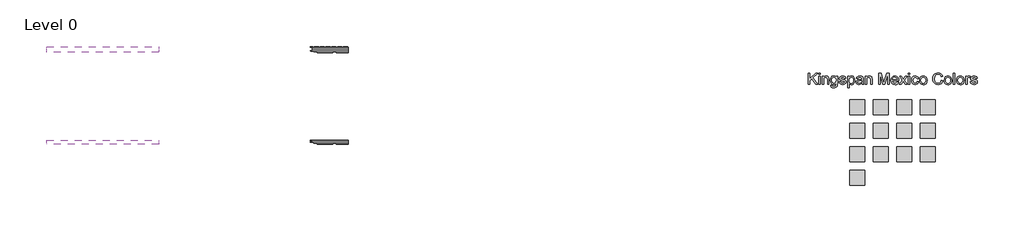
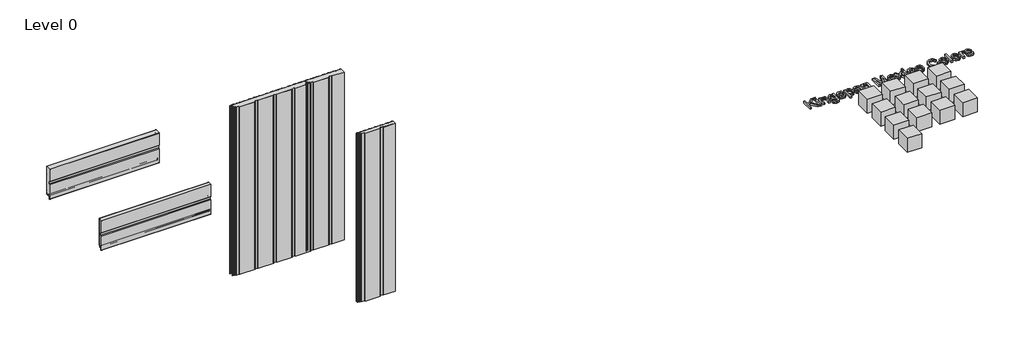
# One storey, incomplete: 14 proxies, 5 plates.
"""IFC4 building model written with IfcOpenShell, lengths in millimetres."""

from ifc_helpers import new_model, si_unit, origin, place, context, project, spatial, transform, mapped, element, save
from components import generic_models_94ed907e, ks_colour_sample_ks_colour_sample_0243efec, hz_050mm_ca93fbe0, hz_075mm_f9465556, vt_050mm_93b16b37, vt_075mm_114747fd, vt_075mm_04f93a46, vt_075mm_c0fd3bfb

model = new_model("IFC4")

# Units and contexts
model_context = context("Model", 3, world=origin())
ifc_project = project(units=[si_unit("LENGTHUNIT", "METRE", prefix="MILLI")], contexts=[model_context])

# Site, building, storey
site = spatial("IfcSite", under=ifc_project)
building = spatial("IfcBuilding", under=site)
storey = spatial("IfcBuildingStorey", under=building, Name="Level 0", Elevation=0.0)

# Proxies
placement = place(None, origin())
generic_models_shape = generic_models_94ed907e(model_context)
element("IfcBuildingElementProxy", 1, Name="KIP-MX_ColourRange_English : KIP-MX_ColourRange_English", ObjectType="KIP-MX_ColourRange_English : KIP-MX_ColourRange_English", at=placement, inside=storey, context=model_context, shape_type="MappedRepresentation", body=[
    mapped(generic_models_shape, transform((1966.0629502, 11802.7493823, 0.0), x_axis=(1.0, 0.0, 0.0), y_axis=(0.0, 1.0, 0.0), z_axis=(0.0, 0.0, 1.0))),
])
ks_colour_sample_ks_colour_sample_shape = ks_colour_sample_ks_colour_sample_0243efec(model_context)
element("IfcBuildingElementProxy", 2, Name="KS_Colour Sample : KS_Colour Sample", ObjectType="KS_Colour Sample : KS_Colour Sample", at=placement, inside=storey, context=model_context, shape_type="MappedRepresentation", body=[
    mapped(ks_colour_sample_ks_colour_sample_shape, transform((1501.0629502, 13781.2299273, 0.0), x_axis=(1.0, 0.0, 0.0), y_axis=(0.0, 1.0, 0.0), z_axis=(0.0, 0.0, 1.0))),
])
element("IfcBuildingElementProxy", 3, Name="KS_Colour Sample : KS_Colour Sample", ObjectType="KS_Colour Sample : KS_Colour Sample", at=placement, inside=storey, context=model_context, shape_type="MappedRepresentation", body=[
    mapped(ks_colour_sample_ks_colour_sample_shape, transform((1811.0629502, 13781.2299273, 0.0), x_axis=(1.0, 0.0, 0.0), y_axis=(0.0, 1.0, 0.0), z_axis=(0.0, 0.0, 1.0))),
])
element("IfcBuildingElementProxy", 4, Name="KS_Colour Sample : KS_Colour Sample", ObjectType="KS_Colour Sample : KS_Colour Sample", at=placement, inside=storey, context=model_context, shape_type="MappedRepresentation", body=[
    mapped(ks_colour_sample_ks_colour_sample_shape, transform((2121.0629502, 13781.2299273, 0.0), x_axis=(1.0, 0.0, 0.0), y_axis=(0.0, 1.0, 0.0), z_axis=(0.0, 0.0, 1.0))),
])
element("IfcBuildingElementProxy", 5, Name="KS_Colour Sample : KS_Colour Sample", ObjectType="KS_Colour Sample : KS_Colour Sample", at=placement, inside=storey, context=model_context, shape_type="MappedRepresentation", body=[
    mapped(ks_colour_sample_ks_colour_sample_shape, transform((2431.0629502, 13781.2299273, 0.0), x_axis=(1.0, 0.0, 0.0), y_axis=(0.0, 1.0, 0.0), z_axis=(0.0, 0.0, 1.0))),
])
element("IfcBuildingElementProxy", 6, Name="KS_Colour Sample : KS_Colour Sample", ObjectType="KS_Colour Sample : KS_Colour Sample", at=placement, inside=storey, context=model_context, shape_type="MappedRepresentation", body=[
    mapped(ks_colour_sample_ks_colour_sample_shape, transform((1501.0629502, 13471.2299273, 0.0), x_axis=(1.0, 0.0, 0.0), y_axis=(0.0, 1.0, 0.0), z_axis=(0.0, 0.0, 1.0))),
])
element("IfcBuildingElementProxy", 7, Name="KS_Colour Sample : KS_Colour Sample", ObjectType="KS_Colour Sample : KS_Colour Sample", at=placement, inside=storey, context=model_context, shape_type="MappedRepresentation", body=[
    mapped(ks_colour_sample_ks_colour_sample_shape, transform((1811.0629502, 13471.2299273, 0.0), x_axis=(1.0, 0.0, 0.0), y_axis=(0.0, 1.0, 0.0), z_axis=(0.0, 0.0, 1.0))),
])
element("IfcBuildingElementProxy", 8, Name="KS_Colour Sample : KS_Colour Sample", ObjectType="KS_Colour Sample : KS_Colour Sample", at=placement, inside=storey, context=model_context, shape_type="MappedRepresentation", body=[
    mapped(ks_colour_sample_ks_colour_sample_shape, transform((2121.0629502, 13471.2299273, 0.0), x_axis=(1.0, 0.0, 0.0), y_axis=(0.0, 1.0, 0.0), z_axis=(0.0, 0.0, 1.0))),
])
element("IfcBuildingElementProxy", 9, Name="KS_Colour Sample : KS_Colour Sample", ObjectType="KS_Colour Sample : KS_Colour Sample", at=placement, inside=storey, context=model_context, shape_type="MappedRepresentation", body=[
    mapped(ks_colour_sample_ks_colour_sample_shape, transform((2431.0629502, 13471.2299273, 0.0), x_axis=(1.0, 0.0, 0.0), y_axis=(0.0, 1.0, 0.0), z_axis=(0.0, 0.0, 1.0))),
])
element("IfcBuildingElementProxy", 10, Name="KS_Colour Sample : KS_Colour Sample", ObjectType="KS_Colour Sample : KS_Colour Sample", at=placement, inside=storey, context=model_context, shape_type="MappedRepresentation", body=[
    mapped(ks_colour_sample_ks_colour_sample_shape, transform((1501.0629502, 13161.2299273, 0.0), x_axis=(1.0, 0.0, 0.0), y_axis=(0.0, 1.0, 0.0), z_axis=(0.0, 0.0, 1.0))),
])
element("IfcBuildingElementProxy", 11, Name="KS_Colour Sample : KS_Colour Sample", ObjectType="KS_Colour Sample : KS_Colour Sample", at=placement, inside=storey, context=model_context, shape_type="MappedRepresentation", body=[
    mapped(ks_colour_sample_ks_colour_sample_shape, transform((1811.0629502, 13161.2299273, 0.0), x_axis=(1.0, 0.0, 0.0), y_axis=(0.0, 1.0, 0.0), z_axis=(0.0, 0.0, 1.0))),
])
element("IfcBuildingElementProxy", 12, Name="KS_Colour Sample : KS_Colour Sample", ObjectType="KS_Colour Sample : KS_Colour Sample", at=placement, inside=storey, context=model_context, shape_type="MappedRepresentation", body=[
    mapped(ks_colour_sample_ks_colour_sample_shape, transform((2121.0629502, 13161.2299273, 0.0), x_axis=(1.0, 0.0, 0.0), y_axis=(0.0, 1.0, 0.0), z_axis=(0.0, 0.0, 1.0))),
])
element("IfcBuildingElementProxy", 13, Name="KS_Colour Sample : KS_Colour Sample", ObjectType="KS_Colour Sample : KS_Colour Sample", at=placement, inside=storey, context=model_context, shape_type="MappedRepresentation", body=[
    mapped(ks_colour_sample_ks_colour_sample_shape, transform((2431.0629502, 13161.2299273, 0.0), x_axis=(1.0, 0.0, 0.0), y_axis=(0.0, 1.0, 0.0), z_axis=(0.0, 0.0, 1.0))),
])
element("IfcBuildingElementProxy", 14, Name="KS_Colour Sample : KS_Colour Sample", ObjectType="KS_Colour Sample : KS_Colour Sample", at=placement, inside=storey, context=model_context, shape_type="MappedRepresentation", body=[
    mapped(ks_colour_sample_ks_colour_sample_shape, transform((1501.0629502, 12851.2299273, 0.0), x_axis=(1.0, 0.0, 0.0), y_axis=(0.0, 1.0, 0.0), z_axis=(0.0, 0.0, 1.0))),
])

# Plates
hz_050mm_shape = hz_050mm_ca93fbe0(model_context)
element("IfcPlate", 15, ObjectType="KIP-MEX-KW-R19-CP-Hz-KW3_SL : Hz 050mm", at=placement, inside=storey, context=model_context, shape_type="MappedRepresentation", body=[
    mapped(hz_050mm_shape, transform((-8438.7250935, 13346.6881223, 2000.0), x_axis=(1.0, 0.0, 0.0), y_axis=(0.0, 1.0, 0.0), z_axis=(0.0, 0.0, 1.0))),
])
hz_075mm_shape = hz_075mm_f9465556(model_context)
element("IfcPlate", 16, ObjectType="KIP-MEX-KW-R19-CP-Hz-KW3_SL : Hz 075mm", at=placement, inside=storey, context=model_context, shape_type="MappedRepresentation", body=[
    mapped(hz_075mm_shape, transform((-8438.7250935, 14580.6646856, 2000.0), x_axis=(1.0, 0.0, 0.0), y_axis=(0.0, 1.0, 0.0), z_axis=(0.0, 0.0, 1.0))),
])
vt_050mm_shape = vt_050mm_93b16b37(model_context)
element("IfcPlate", 17, ObjectType="KIP-MEX-KW-R19-CP-Vt-KW3_SL : Vt 050mm", at=placement, inside=storey, context=model_context, shape_type="MappedRepresentation", body=[
    mapped(vt_050mm_shape, transform((-5438.9413834, 13346.6881223, 0.0), x_axis=(1.0, 0.0, 0.0), y_axis=(0.0, 1.0, 0.0), z_axis=(0.0, 0.0, 1.0))),
])
vt_075mm_shape = vt_075mm_114747fd(model_context)
vt_075mm_2_shape = vt_075mm_04f93a46(model_context)
element("IfcPlate", 18, ObjectType="KIP-MEX-KW-R19-CP-Vt-KW3_SL : Vt 075mm", at=placement, inside=storey, context=model_context, shape_type="MappedRepresentation", body=[
    mapped(vt_075mm_shape, transform((-6178.9413834, 14575.4926205, 0.0), x_axis=(1.0, 0.0, 0.0), y_axis=(0.0, 1.0, 0.0), z_axis=(0.0, 0.0, 1.0))),
    mapped(vt_075mm_2_shape, transform((-6178.9413834, 14575.4926205, 0.0), x_axis=(1.0, 0.0, 0.0), y_axis=(0.0, 1.0, 0.0), z_axis=(0.0, 0.0, 1.0))),
])
vt_075mm_3_shape = vt_075mm_c0fd3bfb(model_context)
element("IfcPlate", 19, ObjectType="KIP-MEX-KW-R19-CP-Vt-KW3_SL : Vt 075mm", at=placement, inside=storey, context=model_context, shape_type="MappedRepresentation", body=[
    mapped(vt_075mm_3_shape, transform((-5438.9413834, 14575.4926205, 0.0), x_axis=(1.0, 0.0, 0.0), y_axis=(0.0, 1.0, 0.0), z_axis=(0.0, 0.0, 1.0))),
])

save(model, "model.ifc")
